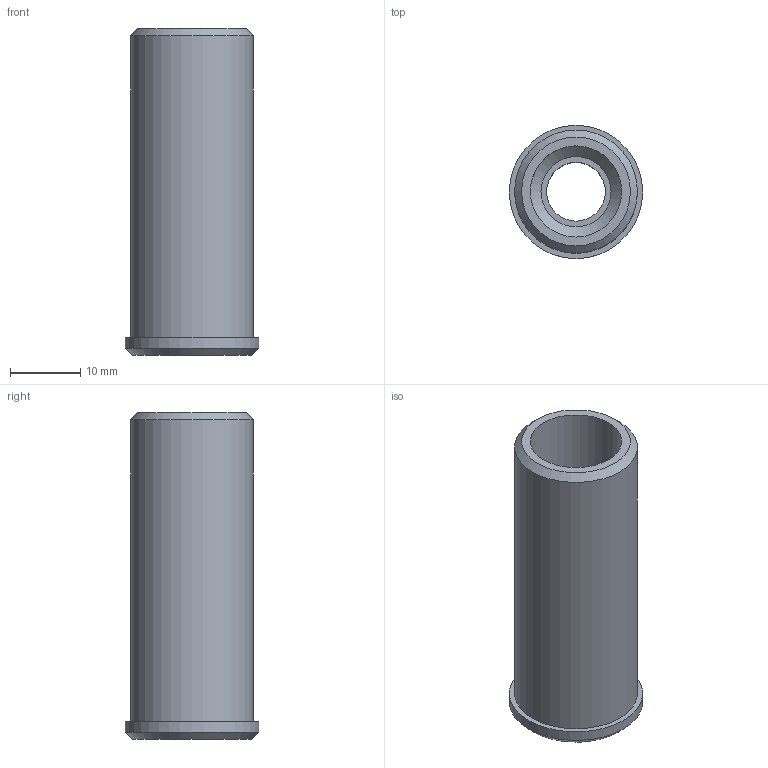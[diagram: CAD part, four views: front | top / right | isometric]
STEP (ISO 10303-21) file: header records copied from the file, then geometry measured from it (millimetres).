
FILE_DESCRIPTION((''),'2;1');
FILE_NAME('E:\catalogue and flyer\Profile catalogue 2015\Accessories ACC info\Accessories ACC step file 31Mar16\ACC-Sleeve M10.stp','2016-04-07T15:15:03',('h029'),(''),'Autodesk Inventor 11','Autodesk Inventor 11','');
FILE_SCHEMA(('AUTOMOTIVE_DESIGN { 1 0 10303 214 1 1 1 1 }'));
Length unit declared in the file: millimetre
Products named in the file (1): Sleeve-M10
Bounding box: 19 x 19 x 46.5 mm (x, y, z)
Volume: 7009.3 mm3; surface area: 4459.6 mm2
Topology: 1 solids, 1 shells, 11 faces, 18 edges, 11 vertices
Faces by surface type: plane 4, cone 3, cylinder 3, bspline 1
Full cylindrical faces by diameter (mm): 13 x1, 17.5 x1, 19 x1
Entity records: 264 total; most frequent: CARTESIAN_POINT 51, DIRECTION 44, AXIS2_PLACEMENT_3D 22, ORIENTED_EDGE 22, EDGE_LOOP 22, VERTEX_POINT 11, CIRCLE 11, EDGE_CURVE 11
